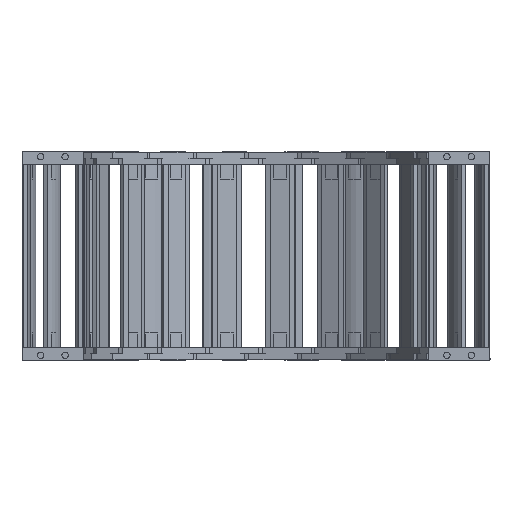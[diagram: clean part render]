
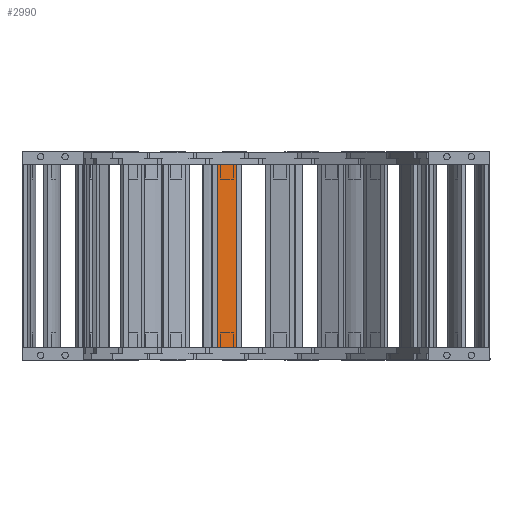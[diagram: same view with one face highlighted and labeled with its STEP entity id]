
A CAD part, left-side view. The second image highlights one B-rep face of the part: STEP entity #2990.
In plain terms, the highlighted planar face has unit normal (-0.986, -0.17, 0) as drawn and (0, -1, 0) by its records, which use the part's own axes.
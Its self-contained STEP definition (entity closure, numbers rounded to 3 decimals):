
#2823=DIRECTION('',(0.,0.,-1.));
#2824=VECTOR('',#2823,225.5);
#2825=CARTESIAN_POINT('',(-11.5,-72.,37.5));
#2826=LINE('',#2825,#2824);
#2852=DIRECTION('',(1.,0.,0.));
#2853=VECTOR('',#2852,23.);
#2854=CARTESIAN_POINT('',(-11.5,-72.,37.5));
#2855=LINE('',#2854,#2853);
#2909=DIRECTION('',(-1.,0.,0.));
#2910=VECTOR('',#2909,23.);
#2911=CARTESIAN_POINT('',(11.5,-72.,-188.));
#2912=LINE('',#2911,#2910);
#2937=DIRECTION('',(0.,0.,-1.));
#2938=VECTOR('',#2937,225.5);
#2939=CARTESIAN_POINT('',(11.5,-72.,37.5));
#2940=LINE('',#2939,#2938);
#2957=CARTESIAN_POINT('',(11.5,-72.,-188.));
#2958=VERTEX_POINT('',#2957);
#2959=CARTESIAN_POINT('',(-11.5,-72.,-188.));
#2960=VERTEX_POINT('',#2959);
#2969=CARTESIAN_POINT('',(11.5,-72.,37.5));
#2970=VERTEX_POINT('',#2969);
#2973=CARTESIAN_POINT('',(-11.5,-72.,37.5));
#2974=VERTEX_POINT('',#2973);
#2975=CARTESIAN_POINT('',(15.5,-72.,-188.));
#2976=DIRECTION('',(0.,1.,0.));
#2977=DIRECTION('',(-1.,0.,0.));
#2978=AXIS2_PLACEMENT_3D('',#2975,#2976,#2977);
#2979=PLANE('',#2978);
#2981=ORIENTED_EDGE('',*,*,#2980,.F.);
#2983=ORIENTED_EDGE('',*,*,#2982,.T.);
#2985=ORIENTED_EDGE('',*,*,#2984,.T.);
#2987=ORIENTED_EDGE('',*,*,#2986,.T.);
#2988=EDGE_LOOP('',(#2981,#2983,#2985,#2987));
#2989=FACE_OUTER_BOUND('',#2988,.F.);
#2990=ADVANCED_FACE('',(#2989),#2979,.F.);
#2980=EDGE_CURVE('',#2974,#2960,#2826,.T.);
#2982=EDGE_CURVE('',#2974,#2970,#2855,.T.);
#2984=EDGE_CURVE('',#2970,#2958,#2940,.T.);
#2986=EDGE_CURVE('',#2958,#2960,#2912,.T.);
